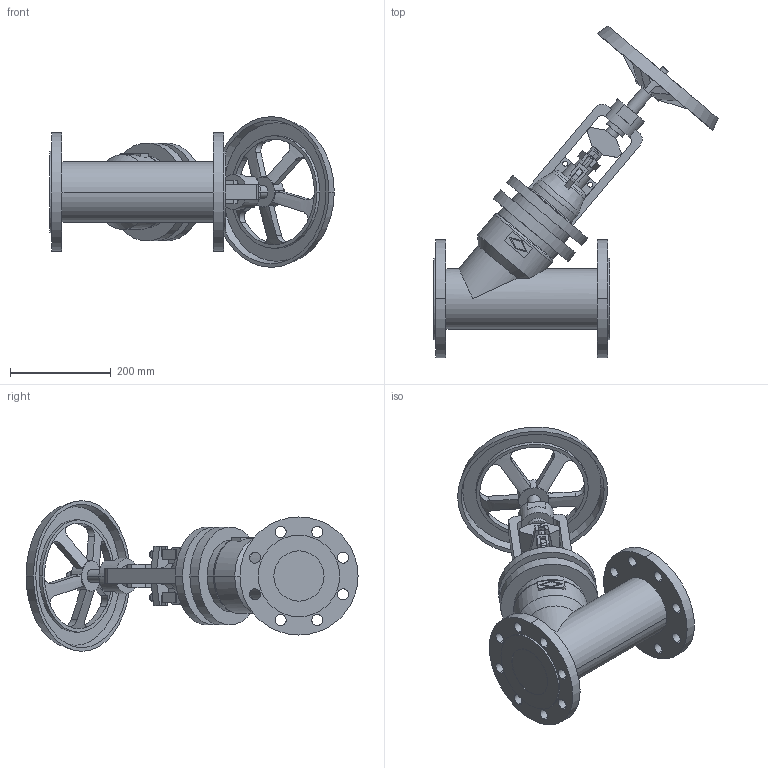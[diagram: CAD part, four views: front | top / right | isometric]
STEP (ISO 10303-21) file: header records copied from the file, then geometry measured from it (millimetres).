
FILE_DESCRIPTION(('OneSpaceDesigner STEP Export'),'2;1');
FILE_NAME('c000004409.stp','2010-05-10T 9:28:36',(''),(''),'OneSpace Designer STEP processor for AP214 (Solid Model)','OneSpace Modeling 15.50B 03-Nov-2007 (C) CoCreate Software GmbH','');
FILE_SCHEMA(('AUTOMOTIVE_DESIGN { 1 0 10303 214 1 1 1 1 }'));
Length unit declared in the file: millimetre
Products named in the file (1): 1
Bounding box: 566.31 x 660.74 x 300 mm (x, y, z)
Volume: 10318762.3 mm3; surface area: 733889.9 mm2
Topology: 1 solids, 1 shells, 318 faces, 838 edges, 547 vertices
Faces by surface type: plane 149, cylinder 125, cone 24, torus 20
Entity records: 12361 total; most frequent: CARTESIAN_POINT 2370, ORIENTED_EDGE 1676, DIRECTION 1356, EDGE_CURVE 838, VERTEX_POINT 547, AXIS2_PLACEMENT_3D 463, VECTOR 430, LINE 430
